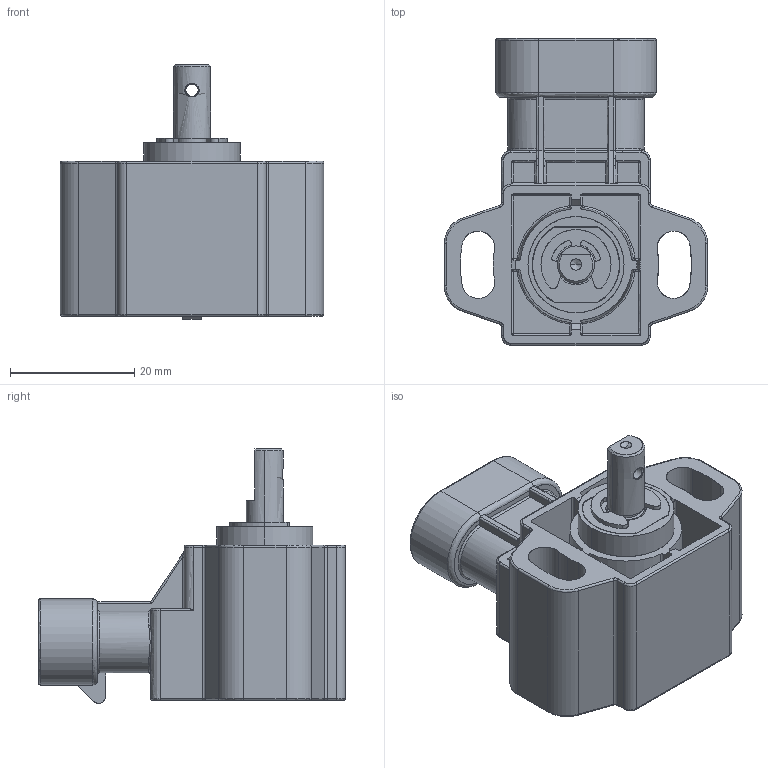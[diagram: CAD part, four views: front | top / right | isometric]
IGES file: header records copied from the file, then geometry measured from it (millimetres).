
Start section: SolidWorks IGES file using analytic representation for surfaces
Global section: file name: \\srv4gefran\dir-cat\Disegni Catalogo\Mobile\GR3P\GR3P 32\3D\Solidworks 2024\GR3PA S3E2SL xxx xxxx X0.IGS; native system: SolidWorks 2024; preprocessor: SolidWorks 2024; author: Loda-w1; date: 241219.154726; units: millimetre
Bounding box: 42.5 x 49.5 x 41.07 mm (x, y, z)
Surface area: 11762.2 mm2 (no closed solid volume)
Topology: 0 solids, 0 shells, 504 faces, 4445 edges, 4416 vertices
Faces by surface type: bspline 264, revolution 240
